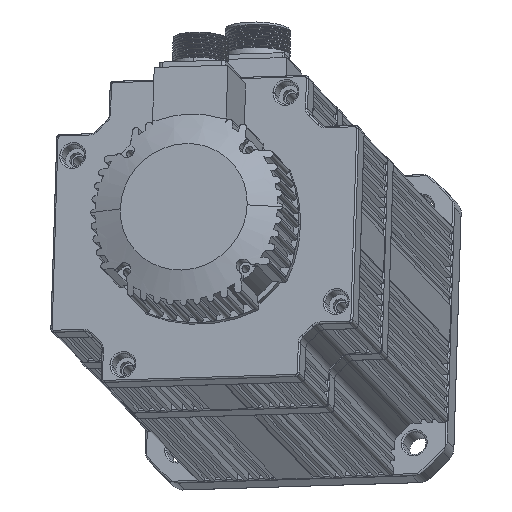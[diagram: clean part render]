
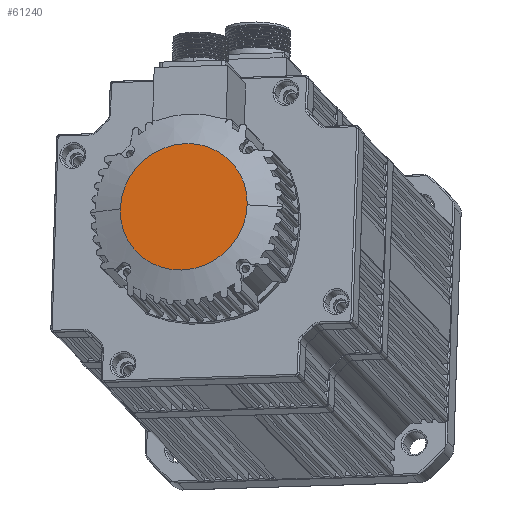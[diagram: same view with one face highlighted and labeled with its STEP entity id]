
A CAD part, top view. The second image highlights one B-rep face of the part: STEP entity #61240.
In plain terms, the highlighted planar face has unit normal (-0.235, 0.245, 0.941) as drawn and (0, 0, -1) by its records, which use the part's own axes.
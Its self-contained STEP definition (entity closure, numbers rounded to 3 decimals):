
#2604 = DIRECTION ( 'NONE',  ( 1., 0., 0. ) ) ;
#6581 = AXIS2_PLACEMENT_3D ( 'NONE', #29496, #66516, #34795 ) ;
#11068 = EDGE_CURVE ( 'NONE', #26505, #59843, #43277, .T. ) ;
#17190 = CARTESIAN_POINT ( 'NONE',  ( 37.918, 0., 0. ) ) ;
#19470 = ORIENTED_EDGE ( 'NONE', *, *, #31116, .F. ) ;
#19790 = CARTESIAN_POINT ( 'NONE',  ( -37.918, 0., 0. ) ) ;
#21241 = CARTESIAN_POINT ( 'NONE',  ( 0., 0., 0. ) ) ;
#22368 = FACE_OUTER_BOUND ( 'NONE', #55075, .T. ) ;
#26505 = VERTEX_POINT ( 'NONE', #17190 ) ;
#26590 = DIRECTION ( 'NONE',  ( 1., 0., 0. ) ) ;
#29496 = CARTESIAN_POINT ( 'NONE',  ( 0., -22.582, 0. ) ) ;
#31116 = EDGE_CURVE ( 'NONE', #59843, #26505, #46884, .T. ) ;
#34241 = DIRECTION ( 'NONE',  ( 0., 0., 1. ) ) ;
#34795 = DIRECTION ( 'NONE',  ( 1., 0., 0. ) ) ;
#43277 = CIRCLE ( 'NONE', #60802, 37.918 ) ;
#46665 = AXIS2_PLACEMENT_3D ( 'NONE', #65976, #34241, #2604 ) ;
#46884 = CIRCLE ( 'NONE', #46665, 37.918 ) ;
#50537 = PLANE ( 'NONE',  #6581 ) ;
#55075 = EDGE_LOOP ( 'NONE', ( #62121, #19470 ) ) ;
#58258 = DIRECTION ( 'NONE',  ( 0., 0., 1. ) ) ;
#59843 = VERTEX_POINT ( 'NONE', #19790 ) ;
#60802 = AXIS2_PLACEMENT_3D ( 'NONE', #21241, #58258, #26590 ) ;
#61240 = ADVANCED_FACE ( 'NONE', ( #22368 ), #50537, .F. ) ;
#62121 = ORIENTED_EDGE ( 'NONE', *, *, #11068, .F. ) ;
#65976 = CARTESIAN_POINT ( 'NONE',  ( 0., 0., 0. ) ) ;
#66516 = DIRECTION ( 'NONE',  ( 0., 0., 1. ) ) ;
